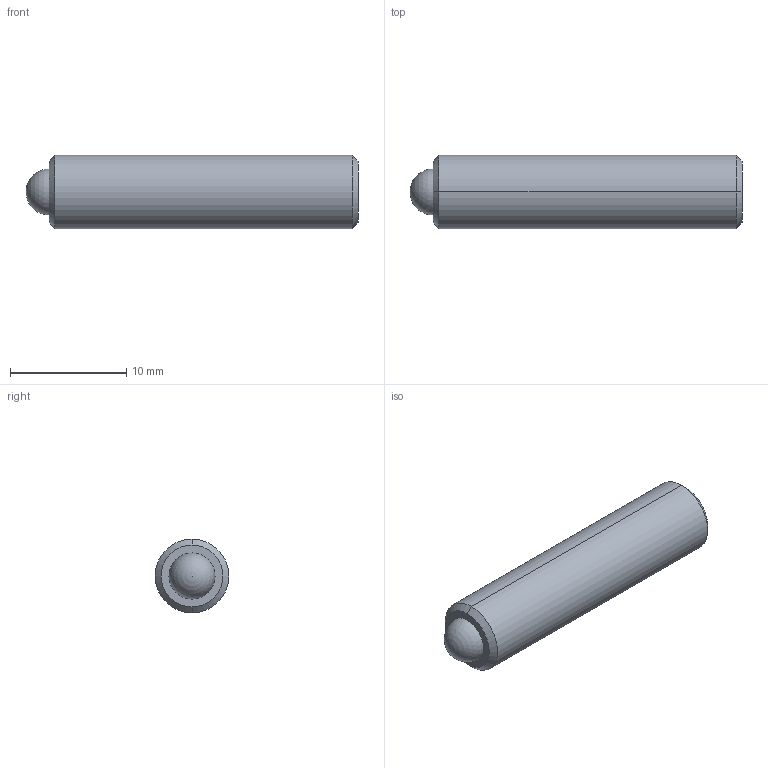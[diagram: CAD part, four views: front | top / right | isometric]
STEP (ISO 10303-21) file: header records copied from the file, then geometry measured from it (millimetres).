
FILE_DESCRIPTION (( 'STEP AP214' ), '1' );
FILE_NAME ('TS250-100-1125.STEP', '2013-02-11T23:16:58', ( 'workpc' ), ( 'Microsoft' ), 'SwSTEP 2.0', 'SolidWorks 2013', '' );
FILE_SCHEMA (( 'AUTOMOTIVE_DESIGN' ));
Length unit declared in the file: inch
Products named in the file (1): TS250-100-1125
Bounding box: 28.57 x 6.35 x 6.35 mm (x, y, z)
Volume: 834.3 mm3; surface area: 674.3 mm2
Topology: 2 solids, 2 shells, 20 faces, 45 edges, 29 vertices
Faces by surface type: plane 10, cylinder 4, cone 4, sphere 2
Entity records: 599 total; most frequent: DIRECTION 96, CARTESIAN_POINT 87, ORIENTED_EDGE 80, EDGE_CURVE 40, AXIS2_PLACEMENT_3D 35, VERTEX_POINT 26, LINE 26, VECTOR 26
